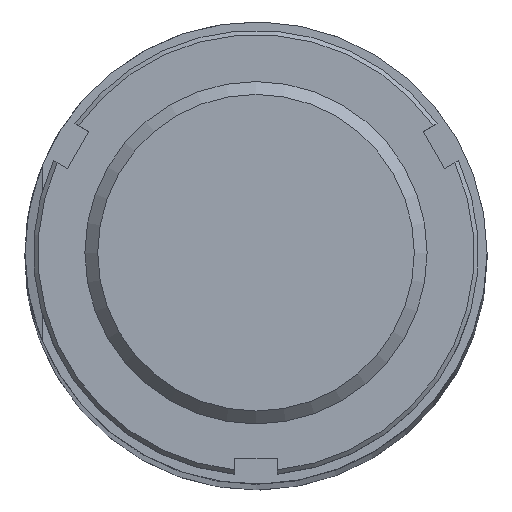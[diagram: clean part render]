
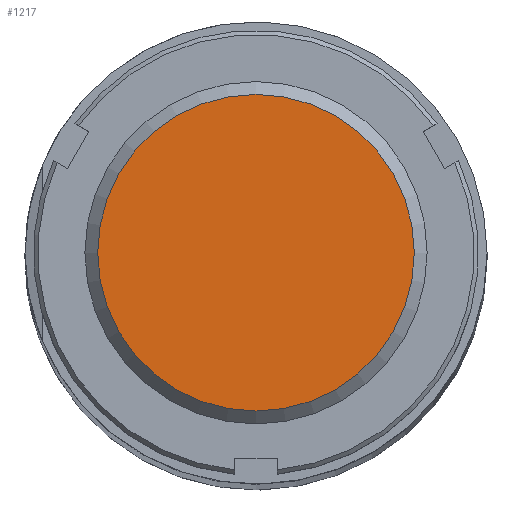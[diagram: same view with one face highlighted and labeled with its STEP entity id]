
A CAD part, top view. The second image highlights one B-rep face of the part: STEP entity #1217.
In plain terms, the highlighted planar face has unit normal (0, 0, 1) as drawn and (-1, 0, 0) by its records, which use the part's own axes.
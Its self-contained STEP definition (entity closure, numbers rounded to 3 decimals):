
#241=PLANE('',#1371);
#365=FACE_OUTER_BOUND('',#492,.T.);
#492=EDGE_LOOP('',(#1018));
#566=CIRCLE('',#1370,18.5);
#654=VERTEX_POINT('',#2060);
#782=EDGE_CURVE('',#654,#654,#566,.T.);
#1018=ORIENTED_EDGE('',*,*,#782,.T.);
#1217=ADVANCED_FACE('',(#365),#241,.T.);
#1370=AXIS2_PLACEMENT_3D('',#2061,#1676,#1677);
#1371=AXIS2_PLACEMENT_3D('',#2062,#1678,#1679);
#1676=DIRECTION('center_axis',(-1.,0.,0.));
#1677=DIRECTION('ref_axis',(0.,0.,1.));
#1678=DIRECTION('center_axis',(-1.,0.,0.));
#1679=DIRECTION('ref_axis',(0.,0.,1.));
#2060=CARTESIAN_POINT('',(-38.,0.,18.5));
#2061=CARTESIAN_POINT('Origin',(-38.,0.,0.));
#2062=CARTESIAN_POINT('Origin',(-38.,0.,0.));
